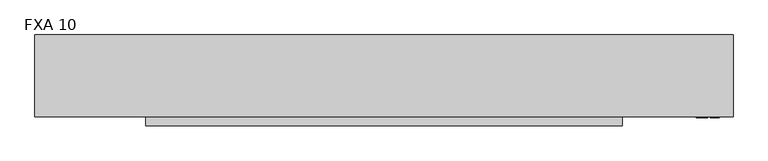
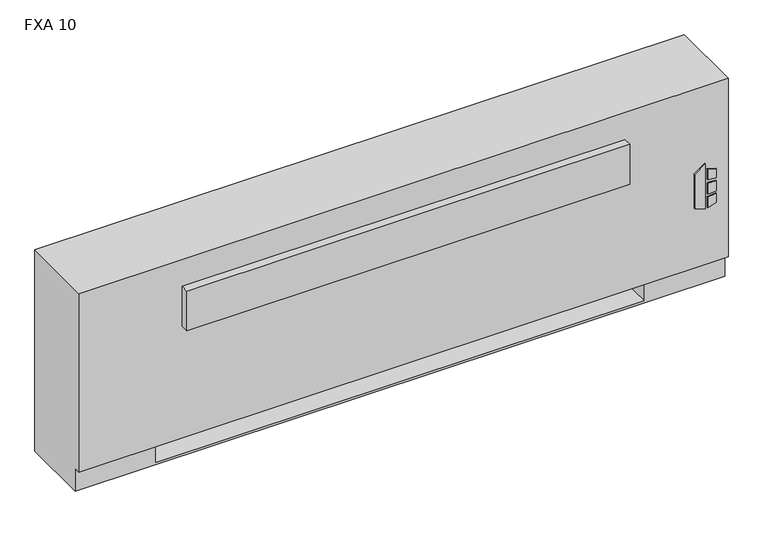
"""IFC4 building model written with IfcOpenShell, lengths in millimetres: proxy geometry, Vertical_Fan_Coil_Unit_-_FXA_-_IEC_-_4-Pipe_FS-FR_LH_2022 : FXA 10."""

from ifc_helpers import new_model, si_unit, point, frame, frame_2d, origin, place, context, project, spatial, polyline, circle_curve, trimmed, segment, composite_curve, outline, extrude, source, transform, mapped, element, save
from ifc_brep_helpers import plane_surface, revolved_surface, advanced_brep


def fxa_10_dd2bd980(model_context):
    return source(origin(), model_context, "Body", "SolidModel", [
        extrude(outline(polyline([(263.9480703, 1027.1868862), (254.0, 1059.3602728), (396.1709244, 1059.3602728), (373.1489183, 1027.1868862), (263.9480703, 1027.1868862)])), frame((0.0, 12.7, 0.0), z_axis=(0.0, 1.0, 0.0), x_axis=(0.0, 0.0, 1.0)), (0.0, 0.0, 1.0), 3.175),
        extrude(outline(polyline([(342.9473557, 1066.1186058), (339.7449632, 1092.2), (368.9738042, 1092.2), (377.0382193, 1066.1186058), (342.9473557, 1066.1186058)])), frame((0.0, 12.7, 0.0), z_axis=(0.0, 1.0, 0.0), x_axis=(0.0, 0.0, 1.0)), (0.0, 0.0, 1.0), 3.175),
        extrude(outline(polyline([(291.0838288, 1092.2), (287.4183279, 1066.1186058), (254.0, 1066.1186058), (262.6342372, 1092.2), (291.0838288, 1092.2)])), frame((0.0, 12.7, 0.0), z_axis=(0.0, 1.0, 0.0), x_axis=(0.0, 0.0, 1.0)), (0.0, 0.0, 1.0), 3.175),
        extrude(outline(polyline([(330.3989903, 1092.2), (332.6808166, 1066.1186058), (296.7432681, 1066.1186058), (299.4845331, 1092.2), (330.3989903, 1092.2)])), frame((0.0, 12.7, 0.0), z_axis=(0.0, 1.0, 0.0), x_axis=(0.0, 0.0, 1.0)), (0.0, 0.0, 1.0), 3.175),
        extrude(outline(polyline([(1009.65, 223.266), (1009.65, 81.534), (889.0, 81.534), (889.0, 223.266), (1009.65, 223.266)])), frame((0.0, 0.0, 327.025), z_axis=(0.0, 0.0, 1.0), x_axis=(1.0, 0.0, 0.0)), (0.0, 0.0, 1.0), 260.35),
        extrude(outline(composite_curve([segment(trimmed(circle_curve(frame_2d((-647.7, 130.175)), 9.525), [point((-657.225, 130.175))], [point((-638.175, 130.175))], False, "CARTESIAN"), True, "CONTINUOUS"), segment(trimmed(circle_curve(frame_2d((-647.7, 130.175)), 9.525), [point((-638.175, 130.175))], [point((-657.225, 130.175))], False, "CARTESIAN"), True, "CONTINUOUS")], self_intersect=False)), frame((0.0, 0.0, 101.6), z_axis=(0.0, 0.0, 1.0), x_axis=(1.0, 0.0, 0.0)), (0.0, 0.0, 1.0), 25.4),
        extrude(outline(polyline([(-749.3, 63.5), (-749.3, 196.85), (-584.2, 196.85), (-584.2, 63.5), (-749.3, 63.5)])), frame((0.0, 0.0, 127.0), z_axis=(0.0, 0.0, 1.0), x_axis=(1.0, 0.0, 0.0)), (0.0, 0.0, 1.0), 50.8),
        extrude(outline(polyline([(819.15, -9.525), (-514.35, -9.525), (-514.35, 15.875), (819.15, 15.875), (819.15, -9.525)])), frame((0.0, 0.0, 428.625), z_axis=(0.0, 0.0, 1.0), x_axis=(1.0, 0.0, 0.0)), (0.0, 0.0, 1.0), 127.0),
        extrude(outline(composite_curve([segment(trimmed(circle_curve(frame_2d((109.0168, 460.0194)), 7.9375), [point((109.0168, 467.9569))], [point((109.0168, 452.0819))], False, "CARTESIAN"), True, "CONTINUOUS"), segment(trimmed(circle_curve(frame_2d((109.0168, 460.0194)), 7.9375), [point((109.0168, 452.0819))], [point((109.0168, 467.9569))], False, "CARTESIAN"), True, "CONTINUOUS")], self_intersect=False)), frame((-635.0, 0.0, 0.0), z_axis=(1.0, 0.0, 0.0), x_axis=(0.0, 1.0, 0.0)), (0.0, 0.0, 1.0), 50.8),
        extrude(outline(composite_curve([segment(trimmed(circle_curve(frame_2d((172.085, 460.0194)), 7.9375), [point((172.085, 467.9569))], [point((172.085, 452.0819))], False, "CARTESIAN"), True, "CONTINUOUS"), segment(trimmed(circle_curve(frame_2d((172.085, 460.0194)), 7.9375), [point((172.085, 452.0819))], [point((172.085, 467.9569))], False, "CARTESIAN"), True, "CONTINUOUS")], self_intersect=False)), frame((-635.0, 0.0, 0.0), z_axis=(1.0, 0.0, 0.0), x_axis=(0.0, 1.0, 0.0)), (0.0, 0.0, 1.0), 50.8),
        extrude(outline(composite_curve([segment(trimmed(circle_curve(frame_2d((130.175, 554.99)), 7.9502), [point((130.175, 562.9402))], [point((130.175, 547.0398))], False, "CARTESIAN"), True, "CONTINUOUS"), segment(trimmed(circle_curve(frame_2d((130.175, 554.99)), 7.9502), [point((130.175, 547.0398))], [point((130.175, 562.9402))], False, "CARTESIAN"), True, "CONTINUOUS")], self_intersect=False)), frame((-635.0, 0.0, 0.0), z_axis=(1.0, 0.0, 0.0), x_axis=(0.0, 1.0, 0.0)), (0.0, 0.0, 1.0), 50.8),
        extrude(outline(composite_curve([segment(trimmed(circle_curve(frame_2d((53.975, 416.56)), 7.9502), [point((53.975, 424.5102))], [point((53.975, 408.6098))], False, "CARTESIAN"), True, "CONTINUOUS"), segment(trimmed(circle_curve(frame_2d((53.975, 416.56)), 7.9502), [point((53.975, 408.6098))], [point((53.975, 424.5102))], False, "CARTESIAN"), True, "CONTINUOUS")], self_intersect=False)), frame((-635.0, 0.0, 0.0), z_axis=(1.0, 0.0, 0.0), x_axis=(0.0, 1.0, 0.0)), (0.0, 0.0, 1.0), 50.8),
        advanced_brep(
        [(1130.3, 244.475, 641.35), (-825.5, 244.475, 641.35), (-825.5, 15.875, 641.35), (1130.3, 15.875, 641.35), (-825.5, 244.475, 0.0), (1130.3, 244.475, 0.0), (1130.3, 34.925, 0.0), (-825.5, 34.925, 0.0), (889.0, 244.475, 73.025), (1117.6, 244.475, 73.025), (1117.6, 244.475, 628.65), (889.0, 244.475, 628.65), (889.0, 244.475, 414.8650565), (917.575, 244.475, 414.8650565), (917.575, 244.475, 385.2349435), (889.0, 244.475, 385.2349435), (889.0, 244.475, 287.3375), (917.575, 244.475, 287.3375), (917.575, 244.475, 258.7625), (889.0, 244.475, 258.7625), (889.0, 244.475, 141.2875), (917.575, 244.475, 141.2875), (917.575, 244.475, 112.7125), (889.0, 244.475, 112.7125), (-584.2, 244.475, 628.65), (-812.8, 244.475, 628.65), (-812.8, 244.475, 73.025), (-584.2, 244.475, 73.025), (-584.2, 244.475, 112.7125), (-612.775, 244.475, 112.7125), (-612.775, 244.475, 141.2875), (-584.2, 244.475, 141.2875), (-584.2, 244.475, 258.7625), (-612.775, 244.475, 258.7625), (-612.775, 244.475, 287.3375), (-584.2, 244.475, 287.3375), (-584.2, 244.475, 385.2349435), (-612.775, 244.475, 385.2349435), (-612.775, 244.475, 414.8650565), (-584.2, 244.475, 414.8650565), (907.2626, 244.475, 127.0), (896.1374, 244.475, 127.0), (907.2626, 244.475, 400.05), (896.1374, 244.475, 400.05), (907.2626, 244.475, 273.05), (896.1374, 244.475, 273.05), (-591.3374, 244.475, 127.0), (-602.4626, 244.475, 127.0), (-591.3374, 244.475, 273.05), (-602.4626, 244.475, 273.05), (-591.3374, 244.475, 400.05), (-602.4626, 244.475, 400.05), (-825.5, 34.925, 73.025), (-825.5, 15.875, 73.025), (1130.3, 15.875, 73.025), (1130.3, 34.925, 73.025), (-584.2, 34.925, 73.025), (-584.2, 219.075, 73.025), (889.0, 219.075, 73.025), (889.0, 34.925, 73.025), (889.0, 34.925, 6.35), (-584.2, 34.925, 6.35), (889.0, 41.275, 628.65), (1117.6, 41.275, 628.65), (1117.6, 41.275, 73.025), (889.0, 41.275, 73.025), (-584.2, 41.275, 628.65), (-584.2, 41.275, 73.025), (-812.8, 41.275, 73.025), (-812.8, 41.275, 628.65), (889.0, 219.075, 73.025), (889.0, 238.125, 112.7125), (889.0, 238.125, 141.2875), (889.0, 238.125, 258.7625), (889.0, 238.125, 287.3375), (889.0, 238.125, 385.2349435), (889.0, 238.125, 414.8650565), (-584.2, 219.075, 73.025), (-584.2, 238.125, 414.8650565), (-584.2, 238.125, 385.2349435), (-584.2, 238.125, 287.3375), (-584.2, 238.125, 258.7625), (-584.2, 238.125, 141.2875), (-584.2, 238.125, 112.7125), (-584.2, 219.075, 6.35), (889.0, 219.075, 6.35), (917.575, 238.125, 112.7125), (917.575, 238.125, 141.2875), (896.1374, 238.125, 127.0), (907.2626, 238.125, 127.0), (917.575, 238.125, 258.7625), (917.575, 238.125, 287.3375), (896.1374, 238.125, 273.05), (907.2626, 238.125, 273.05), (917.575, 238.125, 385.2349435), (917.575, 238.125, 414.8650565), (896.1374, 238.125, 400.05), (907.2626, 238.125, 400.05), (-612.775, 238.125, 141.2875), (-612.775, 238.125, 112.7125), (-602.4626, 238.125, 127.0), (-591.3374, 238.125, 127.0), (-612.775, 238.125, 287.3375), (-612.775, 238.125, 258.7625), (-602.4626, 238.125, 273.05), (-591.3374, 238.125, 273.05), (-612.775, 238.125, 414.8650565), (-612.775, 238.125, 385.2349435), (-602.4626, 238.125, 400.05), (-591.3374, 238.125, 400.05)],
        [
            (0, 1),
            (1, 2),
            (2, 3),
            (3, 0),
            (4, 5),
            (5, 6),
            (6, 7),
            (7, 4),
            (0, 5),
            (4, 1),
            (8, 9),
            (9, 10),
            (10, 11),
            (11, 12),
            (12, 13),
            (13, 14),
            (14, 15),
            (15, 16),
            (16, 17),
            (17, 18),
            (18, 19),
            (19, 20),
            (20, 21),
            (21, 22),
            (22, 23),
            (23, 8),
            (24, 25),
            (25, 26),
            (26, 27),
            (27, 28),
            (28, 29),
            (29, 30),
            (30, 31),
            (31, 32),
            (32, 33),
            (33, 34),
            (34, 35),
            (35, 36),
            (36, 37),
            (37, 38),
            (38, 39),
            (39, 24),
            (40, 41, circle_curve(frame((901.7, 244.475, 127.0), z_axis=(0.0, -1.0, 0.0), x_axis=(-1.0, 0.0, 0.0)), 5.5626)),
            (41, 40, circle_curve(frame((901.7, 244.475, 127.0), z_axis=(0.0, -1.0, 0.0), x_axis=(-1.0, 0.0, 0.0)), 5.5626)),
            (42, 43, circle_curve(frame((901.7, 244.475, 400.05), z_axis=(0.0, -1.0, 0.0), x_axis=(-1.0, 0.0, 0.0)), 5.5626)),
            (43, 42, circle_curve(frame((901.7, 244.475, 400.05), z_axis=(0.0, -1.0, 0.0), x_axis=(-1.0, 0.0, 0.0)), 5.5626)),
            (44, 45, circle_curve(frame((901.7, 244.475, 273.05), z_axis=(0.0, -1.0, 0.0), x_axis=(-1.0, 0.0, 0.0)), 5.5626)),
            (45, 44, circle_curve(frame((901.7, 244.475, 273.05), z_axis=(0.0, -1.0, 0.0), x_axis=(-1.0, 0.0, 0.0)), 5.5626)),
            (46, 47, circle_curve(frame((-596.9, 244.475, 127.0), z_axis=(0.0, -1.0, 0.0), x_axis=(-1.0, 0.0, 0.0)), 5.5626)),
            (47, 46, circle_curve(frame((-596.9, 244.475, 127.0), z_axis=(0.0, -1.0, 0.0), x_axis=(-1.0, 0.0, 0.0)), 5.5626)),
            (48, 49, circle_curve(frame((-596.9, 244.475, 273.05), z_axis=(0.0, -1.0, 0.0), x_axis=(-1.0, 0.0, 0.0)), 5.5626)),
            (49, 48, circle_curve(frame((-596.9, 244.475, 273.05), z_axis=(0.0, -1.0, 0.0), x_axis=(-1.0, 0.0, 0.0)), 5.5626)),
            (50, 51, circle_curve(frame((-596.9, 244.475, 400.05), z_axis=(0.0, -1.0, 0.0), x_axis=(-1.0, 0.0, 0.0)), 5.5626)),
            (51, 50, circle_curve(frame((-596.9, 244.475, 400.05), z_axis=(0.0, -1.0, 0.0), x_axis=(-1.0, 0.0, 0.0)), 5.5626)),
            (7, 52),
            (52, 53),
            (53, 2),
            (53, 54),
            (54, 3),
            (54, 55),
            (55, 6),
            (52, 56),
            (56, 57),
            (57, 58),
            (58, 59),
            (59, 55),
            (59, 60),
            (60, 61),
            (61, 56),
            (62, 63),
            (63, 64),
            (64, 65),
            (65, 62),
            (66, 67),
            (67, 68),
            (68, 69),
            (69, 66),
            (65, 70),
            (70, 8),
            (23, 71),
            (71, 72),
            (72, 20),
            (19, 73),
            (73, 74),
            (74, 16),
            (15, 75),
            (75, 76),
            (76, 12),
            (11, 62),
            (64, 9),
            (63, 10),
            (69, 25),
            (24, 66),
            (68, 26),
            (67, 77),
            (77, 27),
            (39, 78),
            (78, 79),
            (79, 36),
            (35, 80),
            (80, 81),
            (81, 32),
            (31, 82),
            (82, 83),
            (83, 28),
            (57, 84),
            (84, 85),
            (85, 58),
            (85, 60),
            (84, 61),
            (71, 86),
            (86, 87),
            (87, 72),
            (88, 89, circle_curve(frame((901.7, 238.125, 127.0), z_axis=(0.0, 1.0, 0.0), x_axis=(-1.0, 0.0, 0.0)), 5.5626)),
            (89, 88, circle_curve(frame((901.7, 238.125, 127.0), z_axis=(0.0, 1.0, 0.0), x_axis=(-1.0, 0.0, 0.0)), 5.5626)),
            (73, 90),
            (90, 91),
            (91, 74),
            (92, 93, circle_curve(frame((901.7, 238.125, 273.05), z_axis=(0.0, 1.0, 0.0), x_axis=(-1.0, 0.0, 0.0)), 5.5626)),
            (93, 92, circle_curve(frame((901.7, 238.125, 273.05), z_axis=(0.0, 1.0, 0.0), x_axis=(-1.0, 0.0, 0.0)), 5.5626)),
            (75, 94),
            (94, 95),
            (95, 76),
            (96, 97, circle_curve(frame((901.7, 238.125, 400.05), z_axis=(0.0, 1.0, 0.0), x_axis=(-1.0, 0.0, 0.0)), 5.5626)),
            (97, 96, circle_curve(frame((901.7, 238.125, 400.05), z_axis=(0.0, 1.0, 0.0), x_axis=(-1.0, 0.0, 0.0)), 5.5626)),
            (98, 99),
            (99, 83),
            (82, 98),
            (100, 101, circle_curve(frame((-596.9, 238.125, 127.0), z_axis=(0.0, 1.0, 0.0), x_axis=(-1.0, 0.0, 0.0)), 5.5626)),
            (101, 100, circle_curve(frame((-596.9, 238.125, 127.0), z_axis=(0.0, 1.0, 0.0), x_axis=(-1.0, 0.0, 0.0)), 5.5626)),
            (102, 103),
            (103, 81),
            (80, 102),
            (104, 105, circle_curve(frame((-596.9, 238.125, 273.05), z_axis=(0.0, 1.0, 0.0), x_axis=(-1.0, 0.0, 0.0)), 5.5626)),
            (105, 104, circle_curve(frame((-596.9, 238.125, 273.05), z_axis=(0.0, 1.0, 0.0), x_axis=(-1.0, 0.0, 0.0)), 5.5626)),
            (106, 107),
            (107, 79),
            (78, 106),
            (108, 109, circle_curve(frame((-596.9, 238.125, 400.05), z_axis=(0.0, 1.0, 0.0), x_axis=(-1.0, 0.0, 0.0)), 5.5626)),
            (109, 108, circle_curve(frame((-596.9, 238.125, 400.05), z_axis=(0.0, 1.0, 0.0), x_axis=(-1.0, 0.0, 0.0)), 5.5626)),
            (87, 21),
            (86, 22),
            (91, 17),
            (90, 18),
            (95, 13),
            (94, 14),
            (30, 98),
            (99, 29),
            (34, 102),
            (103, 33),
            (38, 106),
            (107, 37),
            (88, 41),
            (40, 89),
            (96, 43),
            (42, 97),
            (92, 45),
            (44, 93),
            (100, 47),
            (46, 101),
            (104, 49),
            (48, 105),
            (108, 51),
            (50, 109),
        ],
        [
            plane_surface(frame((-825.5, 244.475, 641.35), z_axis=(0.0, 0.0, 1.0), x_axis=(-1.0, 0.0, 0.0))),
            plane_surface(frame((-825.5, 244.475, 0.0), z_axis=(0.0, 0.0, -1.0), x_axis=(1.0, 0.0, 0.0))),
            plane_surface(frame((1130.3, 244.475, 641.35), z_axis=(0.0, 1.0, 0.0), x_axis=(0.0, 0.0, -1.0))),
            plane_surface(frame((-825.5, 244.475, 641.35), z_axis=(-1.0, 0.0, 0.0), x_axis=(0.0, 0.0, -1.0))),
            plane_surface(frame((-825.5, 15.875, 641.35), z_axis=(0.0, -1.0, 0.0), x_axis=(0.0, 0.0, -1.0))),
            plane_surface(frame((1130.3, 15.875, 641.35), z_axis=(1.0, 0.0, 0.0), x_axis=(0.0, 0.0, -1.0))),
            plane_surface(frame((-825.5, 15.875, 73.025), z_axis=(0.0, 0.0, -1.0), x_axis=(1.0, 0.0, 0.0))),
            plane_surface(frame((-825.5, 34.925, 73.025), z_axis=(0.0, -1.0, 0.0), x_axis=(1.0, 0.0, 0.0))),
            plane_surface(frame((889.0, 41.275, 628.65), z_axis=(0.0, 1.0, 0.0), x_axis=(0.0, 0.0, -1.0))),
            plane_surface(frame((889.0, 41.275, 628.65), z_axis=(1.0, 0.0, 0.0), x_axis=(0.0, 1.0, 0.0))),
            plane_surface(frame((889.0, 41.275, 73.025), z_axis=(0.0, 0.0, 1.0), x_axis=(0.0, 1.0, 0.0))),
            plane_surface(frame((1117.6, 41.275, 73.025), z_axis=(-1.0, 0.0, 0.0), x_axis=(0.0, 1.0, 0.0))),
            plane_surface(frame((1117.6, 41.275, 628.65), z_axis=(0.0, 0.0, -1.0), x_axis=(0.0, 1.0, 0.0))),
            plane_surface(frame((-584.2, 41.275, 628.65), z_axis=(0.0, 0.0, -1.0), x_axis=(0.0, 1.0, 0.0))),
            plane_surface(frame((-812.8, 41.275, 628.65), z_axis=(1.0, 0.0, 0.0), x_axis=(0.0, 1.0, 0.0))),
            plane_surface(frame((-812.8, 41.275, 73.025), z_axis=(0.0, 0.0, 1.0), x_axis=(0.0, 1.0, 0.0))),
            plane_surface(frame((-584.2, 41.275, 73.025), z_axis=(-1.0, 0.0, 0.0), x_axis=(0.0, 1.0, 0.0))),
            plane_surface(frame((889.0, 219.075, 73.025), z_axis=(0.0, -1.0, 0.0), x_axis=(0.0, 0.0, -1.0))),
            plane_surface(frame((889.0, 219.075, 73.025), z_axis=(-1.0, 0.0, 0.0), x_axis=(0.0, -1.0, 0.0))),
            plane_surface(frame((889.0, 219.075, 6.35), z_axis=(0.0, 0.0, 1.0), x_axis=(0.0, -1.0, 0.0))),
            plane_surface(frame((-584.2, 219.075, 6.35), z_axis=(1.0, 0.0, 0.0), x_axis=(0.0, -1.0, 0.0))),
            plane_surface(frame((917.575, 238.125, 141.2875), z_axis=(0.0, -1.0, 0.0), x_axis=(-1.0, 0.0, 0.0))),
            plane_surface(frame((889.0, 244.475, 141.2875), z_axis=(0.0, 0.0, 1.0), x_axis=(0.0, -1.0, 0.0))),
            plane_surface(frame((917.575, 244.475, 141.2875), z_axis=(1.0, 0.0, 0.0), x_axis=(0.0, -1.0, 0.0))),
            plane_surface(frame((917.575, 244.475, 112.7125), z_axis=(0.0, 0.0, -1.0), x_axis=(0.0, -1.0, 0.0))),
            plane_surface(frame((889.0, 244.475, 287.3375), z_axis=(0.0, 0.0, 1.0), x_axis=(0.0, -1.0, 0.0))),
            plane_surface(frame((917.575, 244.475, 287.3375), z_axis=(1.0, 0.0, 0.0), x_axis=(0.0, -1.0, 0.0))),
            plane_surface(frame((917.575, 244.475, 258.7625), z_axis=(0.0, 0.0, -1.0), x_axis=(0.0, -1.0, 0.0))),
            plane_surface(frame((889.0, 244.475, 414.8650565), z_axis=(0.0, 0.0, 1.0), x_axis=(0.0, -1.0, 0.0))),
            plane_surface(frame((917.575, 244.475, 414.8650565), z_axis=(1.0, 0.0, 0.0), x_axis=(0.0, -1.0, 0.0))),
            plane_surface(frame((917.575, 244.475, 385.2349435), z_axis=(0.0, 0.0, -1.0), x_axis=(0.0, -1.0, 0.0))),
            plane_surface(frame((-612.775, 244.475, 141.2875), z_axis=(0.0, 0.0, 1.0), x_axis=(0.0, -1.0, 0.0))),
            plane_surface(frame((-584.2, 244.475, 112.7125), z_axis=(0.0, 0.0, -1.0), x_axis=(0.0, -1.0, 0.0))),
            plane_surface(frame((-612.775, 244.475, 112.7125), z_axis=(-1.0, 0.0, 0.0), x_axis=(0.0, -1.0, 0.0))),
            plane_surface(frame((-612.775, 244.475, 287.3375), z_axis=(0.0, 0.0, 1.0), x_axis=(0.0, -1.0, 0.0))),
            plane_surface(frame((-584.2, 244.475, 258.7625), z_axis=(0.0, 0.0, -1.0), x_axis=(0.0, -1.0, 0.0))),
            plane_surface(frame((-612.775, 244.475, 258.7625), z_axis=(-1.0, 0.0, 0.0), x_axis=(0.0, -1.0, 0.0))),
            plane_surface(frame((-612.775, 244.475, 414.8650565), z_axis=(0.0, 0.0, 1.0), x_axis=(0.0, -1.0, 0.0))),
            plane_surface(frame((-584.2, 244.475, 385.2349435), z_axis=(0.0, 0.0, -1.0), x_axis=(0.0, -1.0, 0.0))),
            plane_surface(frame((-612.775, 244.475, 385.2349435), z_axis=(-1.0, 0.0, 0.0), x_axis=(0.0, -1.0, 0.0))),
            revolved_surface(polyline([(896.1374000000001, 238.125, 127.0), (896.1374000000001, 244.475, 127.0)]), (901.7, 244.475, 127.0), (0.0, -1.0, 0.0)),
            revolved_surface(polyline([(896.1374000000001, 238.125, 400.05), (896.1374000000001, 244.475, 400.05)]), (901.7, 244.475, 400.05), (0.0, -1.0, 0.0)),
            revolved_surface(polyline([(896.1374000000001, 238.125, 273.05), (896.1374000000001, 244.475, 273.05)]), (901.7, 244.475, 273.05), (0.0, -1.0, 0.0)),
            revolved_surface(polyline([(-602.4626, 238.125, 127.0), (-602.4626, 244.475, 127.0)]), (-596.9, 244.475, 127.0), (0.0, -1.0, 0.0)),
            revolved_surface(polyline([(-602.4626, 238.125, 273.05), (-602.4626, 244.475, 273.05)]), (-596.9, 244.475, 273.05), (0.0, -1.0, 0.0)),
            revolved_surface(polyline([(-602.4626, 238.125, 400.05), (-602.4626, 244.475, 400.05)]), (-596.9, 244.475, 400.05), (0.0, -1.0, 0.0)),
        ],
        [
            (0, [[1, 2, 3, 4]]),
            (1, [[5, 6, 7, 8]]),
            (2, [[-1, 9, -5, 10], [11, 12, 13, 14, 15, 16, 17, 18, 19, 20, 21, 22, 23, 24, 25, 26], [27, 28, 29, 30, 31, 32, 33, 34, 35, 36, 37, 38, 39, 40, 41, 42], [43, 44], [45, 46], [47, 48], [49, 50], [51, 52], [53, 54]]),
            (3, [[-2, -10, -8, 55, 56, 57]]),
            (4, [[-3, -57, 58, 59]]),
            (5, [[-4, -59, 60, 61, -6, -9]]),
            (6, [[-56, 62, 63, 64, 65, 66, -60, -58]]),
            (7, [[-7, -61, -66, 67, 68, 69, -62, -55]]),
            (8, [[70, 71, 72, 73]]),
            (8, [[74, 75, 76, 77]]),
            (9, [[-73, 78, 79, -26, 80, 81, 82, -22, 83, 84, 85, -18, 86, 87, 88, -14, 89]]),
            (10, [[-72, 90, -11, -79, -78]]),
            (11, [[-71, 91, -12, -90]]),
            (12, [[-70, -89, -13, -91]]),
            (13, [[-77, 92, -27, 93]]),
            (14, [[-76, 94, -28, -92]]),
            (15, [[-75, 95, 96, -29, -94]]),
            (16, [[-74, -93, -42, 97, 98, 99, -38, 100, 101, 102, -34, 103, 104, 105, -30, -96, -95]]),
            (17, [[-64, 106, 107, 108]]),
            (18, [[-108, 109, -67, -65]]),
            (19, [[-107, 110, -68, -109]]),
            (20, [[-106, -63, -69, -110]]),
            (21, [[111, 112, 113, -81], [114, 115]]),
            (21, [[116, 117, 118, -84], [119, 120]]),
            (21, [[121, 122, 123, -87], [124, 125]]),
            (21, [[126, 127, -104, 128], [129, 130]]),
            (21, [[131, 132, -101, 133], [134, 135]]),
            (21, [[136, 137, -98, 138], [139, 140]]),
            (22, [[-113, 141, -23, -82]]),
            (23, [[-112, 142, -24, -141]]),
            (24, [[-111, -80, -25, -142]]),
            (25, [[-118, 143, -19, -85]]),
            (26, [[-117, 144, -20, -143]]),
            (27, [[-116, -83, -21, -144]]),
            (28, [[-123, 145, -15, -88]]),
            (29, [[-122, 146, -16, -145]]),
            (30, [[-121, -86, -17, -146]]),
            (31, [[-128, -103, -33, 147]]),
            (32, [[-127, 148, -31, -105]]),
            (33, [[-126, -147, -32, -148]]),
            (34, [[-133, -100, -37, 149]]),
            (35, [[-132, 150, -35, -102]]),
            (36, [[-131, -149, -36, -150]]),
            (37, [[-138, -97, -41, 151]]),
            (38, [[-137, 152, -39, -99]]),
            (39, [[-136, -151, -40, -152]]),
            (40, [[153, -43, 154, -114]]),
            (40, [[-153, -115, -154, -44]]),
            (41, [[155, -45, 156, -124]]),
            (41, [[-155, -125, -156, -46]]),
            (42, [[157, -47, 158, -119]]),
            (42, [[-157, -120, -158, -48]]),
            (43, [[159, -49, 160, -129]]),
            (43, [[-159, -130, -160, -50]]),
            (44, [[161, -51, 162, -134]]),
            (44, [[-161, -135, -162, -52]]),
            (45, [[163, -53, 164, -139]]),
            (45, [[-163, -140, -164, -54]]),
        ],
    ),
    ])


if __name__ == "__main__":
    model = new_model("IFC4")
    model_context = context("Model", 3, world=origin())
    ifc_project = project(units=[si_unit("LENGTHUNIT", "METRE", prefix="MILLI")], contexts=[model_context])
    site = spatial("IfcSite", under=ifc_project)
    building = spatial("IfcBuilding", under=site)
    placement = place(None, origin())
    fxa_10_shape = fxa_10_dd2bd980(model_context)
    element("IfcBuildingElementProxy", 1, Name="Vertical_Fan_Coil_Unit_-_FXA_-_IEC_-_4-Pipe_FS-FR_LH_2022 : FXA 10", ObjectType="Vertical_Fan_Coil_Unit_-_FXA_-_IEC_-_4-Pipe_FS-FR_LH_2022 : FXA 10", at=placement, inside=building, context=model_context, shape_type="MappedRepresentation", body=[
        mapped(fxa_10_shape, transform((0.0, 0.0, 0.0), x_axis=(1.0, 0.0, 0.0), y_axis=(0.0, 1.0, 0.0), z_axis=(0.0, 0.0, 1.0))),
    ])
    save(model, "model.ifc")
